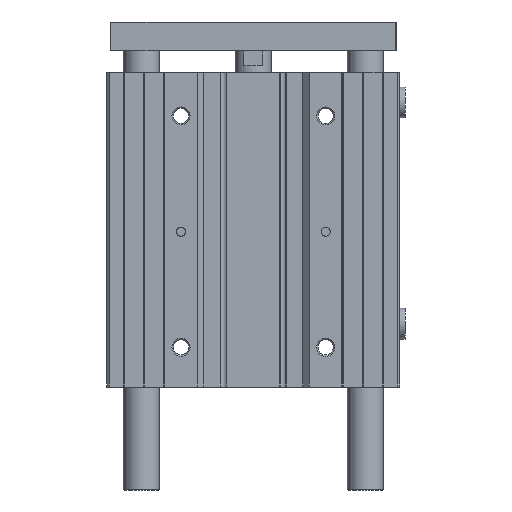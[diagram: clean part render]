
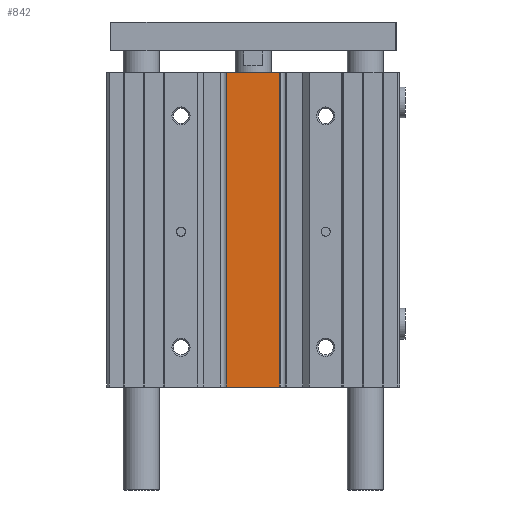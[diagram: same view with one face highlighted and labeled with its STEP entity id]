
A CAD part, left-side view. The second image highlights one B-rep face of the part: STEP entity #842.
In plain terms, the highlighted planar face has unit normal (-1, 0, 0).
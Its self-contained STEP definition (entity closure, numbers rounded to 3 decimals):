
#842 = ADVANCED_FACE( '', ( #1853 ), #1854, .T. );
#1853 = FACE_OUTER_BOUND( '', #3043, .T. );
#1854 = PLANE( '', #3044 );
#3043 = EDGE_LOOP( '', ( #5226, #5227, #5228, #5229 ) );
#3044 = AXIS2_PLACEMENT_3D( '', #5230, #5231, #5232 );
#5226 = ORIENTED_EDGE( '', *, *, #7132, .F. );
#5227 = ORIENTED_EDGE( '', *, *, #6740, .F. );
#5228 = ORIENTED_EDGE( '', *, *, #7305, .T. );
#5229 = ORIENTED_EDGE( '', *, *, #7068, .T. );
#5230 = CARTESIAN_POINT( '', ( -35.5, 14.7, -174. ) );
#5231 = DIRECTION( '', ( -1., 0., 0. ) );
#5232 = DIRECTION( '', ( 0., 0., 1. ) );
#6740 = EDGE_CURVE( '', #8053, #8049, #8055, .T. );
#7068 = EDGE_CURVE( '', #8566, #8564, #8567, .T. );
#7132 = EDGE_CURVE( '', #8049, #8564, #8668, .T. );
#7305 = EDGE_CURVE( '', #8053, #8566, #8903, .T. );
#8049 = VERTEX_POINT( '', #9930 );
#8053 = VERTEX_POINT( '', #9935 );
#8055 = LINE( '', #9937, #9938 );
#8564 = VERTEX_POINT( '', #10683 );
#8566 = VERTEX_POINT( '', #10685 );
#8567 = LINE( '', #10686, #10687 );
#8668 = LINE( '', #10825, #10826 );
#8903 = LINE( '', #11161, #11162 );
#9930 = CARTESIAN_POINT( '', ( -35.5, 14.7, 0. ) );
#9935 = CARTESIAN_POINT( '', ( -35.5, 14.7, -174. ) );
#9937 = CARTESIAN_POINT( '', ( -35.5, 14.7, -174. ) );
#9938 = VECTOR( '', #11953, 1000. );
#10683 = CARTESIAN_POINT( '', ( -35.5, -14.7, 0. ) );
#10685 = CARTESIAN_POINT( '', ( -35.5, -14.7, -174. ) );
#10686 = CARTESIAN_POINT( '', ( -35.5, -14.7, -174. ) );
#10687 = VECTOR( '', #12349, 1000. );
#10825 = CARTESIAN_POINT( '', ( -35.5, 14.7, 0. ) );
#10826 = VECTOR( '', #12450, 1000. );
#11161 = CARTESIAN_POINT( '', ( -35.5, 14.7, -174. ) );
#11162 = VECTOR( '', #12643, 1000. );
#11953 = DIRECTION( '', ( 0., 0., 1. ) );
#12349 = DIRECTION( '', ( 0., 0., 1. ) );
#12450 = DIRECTION( '', ( 0., -1., 0. ) );
#12643 = DIRECTION( '', ( 0., -1., 0. ) );
